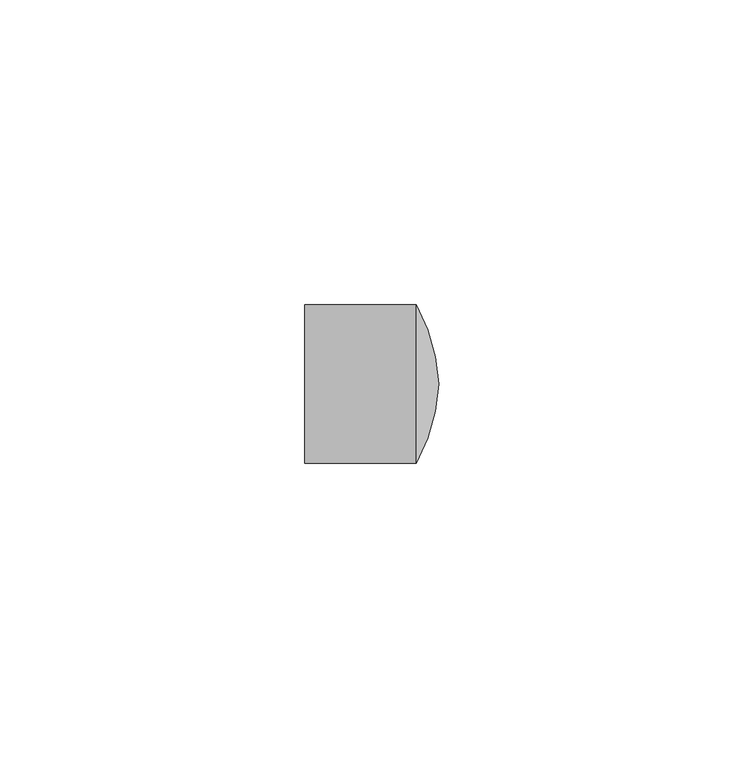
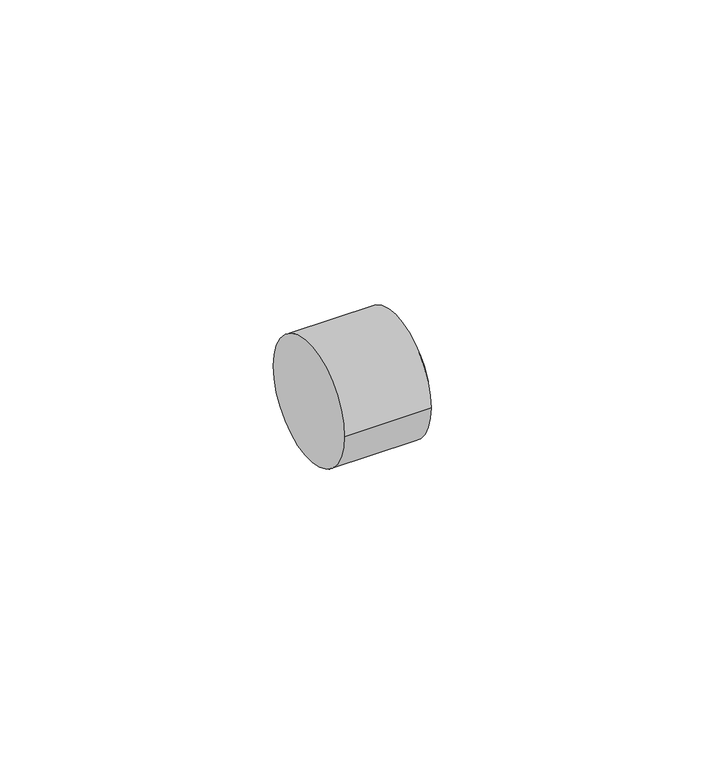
"""IFC4 building model written with IfcOpenShell, lengths in millimetres: pipe fitting geometry, 01051012 : Tapones H."""

from ifc_helpers import new_model, si_unit, point, frame, origin, place, context, project, spatial, circle_curve, ellipse_curve, trimmed, source, transform, mapped, element, save
from ifc_brep_helpers import plane_surface, cylinder_surface, revolved_surface, advanced_brep


def pipe_fitting_f9b638e0(model_context):
    return source(origin(), model_context, "Body", "AdvancedBrep", [
        advanced_brep(
        [(18.3333333, 13.0, 0.0), (22.0, 0.0, 0.0), (18.3333333, -13.0, 0.0), (0.0, -13.0, 0.0), (0.0, 13.0, 0.0)],
        [
            (0, 1, circle_curve(frame((-7.641125, -1.3432233, 0.0), z_axis=(0.0, 0.0, -1.0), x_axis=(1.0, 0.0, 0.0)), 29.6715443)),
            (1, 2, circle_curve(frame((-7.641125, 1.3432233, 0.0), z_axis=(0.0, 0.0, -1.0), x_axis=(1.0, 0.0, 0.0)), 29.6715443)),
            (2, 0, circle_curve(frame((18.3333333, 0.0, 0.0), z_axis=(1.0, 0.0, 0.0), x_axis=(0.0, 1.0, 0.0)), 13.0)),
            (0, 2, circle_curve(frame((18.3333333, 0.0, 0.0), z_axis=(1.0, 0.0, 0.0), x_axis=(0.0, 1.0, 0.0)), 13.0)),
            (3, 4, circle_curve(frame((0.0, 0.0, 0.0), z_axis=(-1.0, 0.0, 0.0), x_axis=(0.0, 1.0, 0.0)), 13.0)),
            (4, 3, circle_curve(frame((0.0, 0.0, 0.0), z_axis=(-1.0, 0.0, 0.0), x_axis=(0.0, 1.0, 0.0)), 13.0)),
            (3, 2),
            (0, 4),
        ],
        [
            revolved_surface(trimmed(ellipse_curve(frame((-7.641125, -1.3432233, 0.0), z_axis=(0.0, 0.0, 1.0), x_axis=(1.0, 0.0, 0.0)), 29.6715443, 29.6715443), [point((22.0, 0.0, 0.0))], [point((18.3333333, 13.0, 0.0))], True, "CARTESIAN"), (18.3333333, 0.0, 0.0), (-1.0, 0.0, 0.0)),
            plane_surface(frame((0.0, 0.0, 0.0), z_axis=(-1.0, 0.0, 0.0), x_axis=(0.0, 0.0, 1.0))),
            cylinder_surface(frame((0.0, 0.0, 0.0), z_axis=(-1.0, 0.0, 0.0), x_axis=(0.0, 1.0, 0.0)), 13.0),
        ],
        [
            (0, [[1, 2, 3]]),
            (0, [[-1, 4, -2]]),
            (1, [[5, 6]]),
            (2, [[-5, 7, -4, 8]]),
            (2, [[-6, -8, -3, -7]]),
        ],
    ),
    ])


if __name__ == "__main__":
    model = new_model("IFC4")
    model_context = context("Model", 3, world=origin())
    ifc_project = project(units=[si_unit("LENGTHUNIT", "METRE", prefix="MILLI")], contexts=[model_context])
    site = spatial("IfcSite", under=ifc_project)
    building = spatial("IfcBuilding", under=site)
    placement = place(None, origin())
    pipe_fitting_shape = pipe_fitting_f9b638e0(model_context)
    element("IfcPipeFitting", 1, ObjectType="01051012 : Tapones H", at=placement, inside=building, context=model_context, shape_type="MappedRepresentation", body=[
        mapped(pipe_fitting_shape, transform((0.0, 0.0, 0.0), x_axis=(1.0, 0.0, 0.0), y_axis=(0.0, 1.0, 0.0), z_axis=(0.0, 0.0, 1.0))),
    ])
    save(model, "model.ifc")
